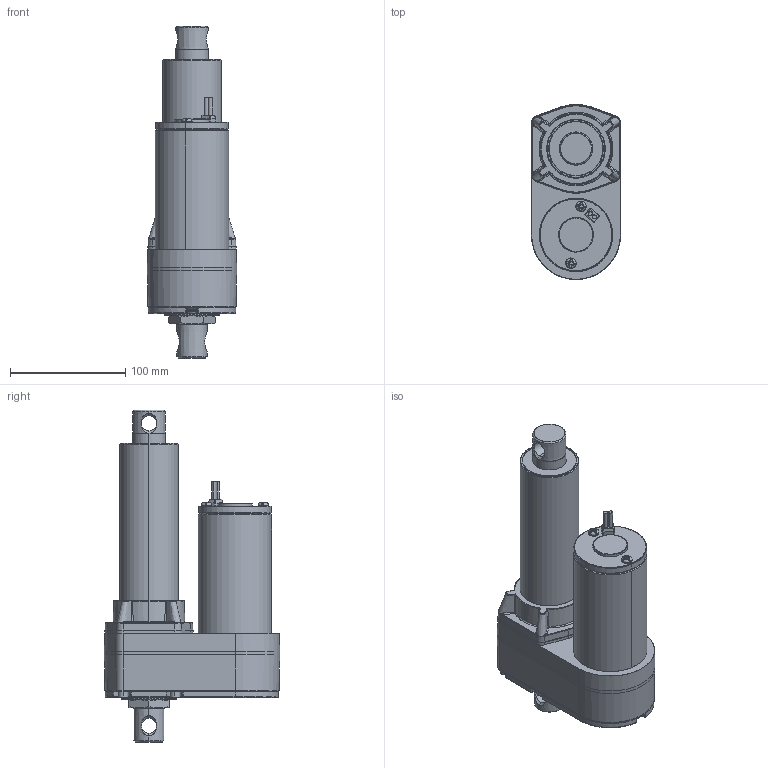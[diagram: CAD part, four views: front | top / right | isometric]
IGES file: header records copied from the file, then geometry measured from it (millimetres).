
Start section: SolidWorks IGES file using analytic representation for surfaces
Global section: file name: C:\Users\lynn\Desktop\工作用資料夾\3D CAD Models Community\ID10(over)\新增IP69\ID10\3D\ID10-A-102-IP69K\ID10-A-102-IP69K.IGS; native system: SolidWorks 2020; preprocessor: SolidWorks 2020; author: lynn; date: 221004.171947; units: millimetre
Bounding box: 77.3 x 151.8 x 287.5 mm (x, y, z)
Surface area: 148163.3 mm2 (no closed solid volume)
Topology: 0 solids, 0 shells, 1535 faces, 15487 edges, 15439 vertices
Faces by surface type: bspline 985, revolution 550
